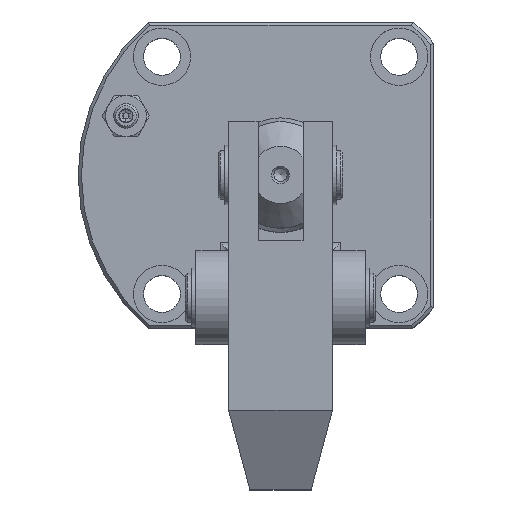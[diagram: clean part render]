
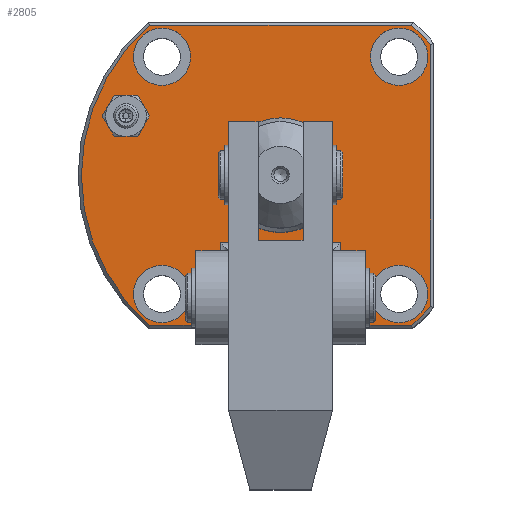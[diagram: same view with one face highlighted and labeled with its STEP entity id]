
A CAD part, top view. The second image highlights one B-rep face of the part: STEP entity #2805.
In plain terms, the highlighted planar face has unit normal (0, 0, 1).
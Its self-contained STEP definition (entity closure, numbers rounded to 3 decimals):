
#210=CIRCLE('',#3038,5.);
#247=CIRCLE('',#3112,48.7);
#248=CIRCLE('',#3115,48.7);
#249=CIRCLE('',#3118,48.7);
#250=CIRCLE('',#3121,7.);
#251=CIRCLE('',#3123,7.);
#252=CIRCLE('',#3125,7.);
#253=CIRCLE('',#3127,7.);
#254=CIRCLE('',#3129,14.);
#372=PLANE('',#3130);
#466=LINE('',#4701,#604);
#478=LINE('',#4865,#616);
#479=LINE('',#4879,#617);
#480=LINE('',#4888,#618);
#482=LINE('',#4907,#620);
#483=LINE('',#4909,#621);
#484=LINE('',#4911,#622);
#604=VECTOR('',#3476,1000.);
#616=VECTOR('',#3632,1000.);
#617=VECTOR('',#3639,1000.);
#618=VECTOR('',#3646,1000.);
#620=VECTOR('',#3670,1000.);
#621=VECTOR('',#3671,1000.);
#622=VECTOR('',#3672,1000.);
#1013=ORIENTED_EDGE('',*,*,#1514,.F.);
#1014=ORIENTED_EDGE('',*,*,#1594,.T.);
#1015=ORIENTED_EDGE('',*,*,#1523,.T.);
#1016=ORIENTED_EDGE('',*,*,#1595,.T.);
#1017=ORIENTED_EDGE('',*,*,#1596,.T.);
#1018=ORIENTED_EDGE('',*,*,#1597,.T.);
#1019=ORIENTED_EDGE('',*,*,#1588,.T.);
#1020=ORIENTED_EDGE('',*,*,#1587,.T.);
#1021=ORIENTED_EDGE('',*,*,#1585,.T.);
#1022=ORIENTED_EDGE('',*,*,#1583,.T.);
#1023=ORIENTED_EDGE('',*,*,#1581,.T.);
#1024=ORIENTED_EDGE('',*,*,#1578,.T.);
#1025=ORIENTED_EDGE('',*,*,#1592,.F.);
#1026=ORIENTED_EDGE('',*,*,#1591,.F.);
#1027=ORIENTED_EDGE('',*,*,#1590,.F.);
#1028=ORIENTED_EDGE('',*,*,#1593,.F.);
#1514=EDGE_CURVE('',#1847,#1847,#210,.T.);
#1523=EDGE_CURVE('',#1855,#1854,#466,.T.);
#1578=EDGE_CURVE('',#1897,#1855,#247,.T.);
#1581=EDGE_CURVE('',#1898,#1897,#478,.T.);
#1583=EDGE_CURVE('',#1899,#1898,#248,.T.);
#1585=EDGE_CURVE('',#1900,#1899,#479,.T.);
#1587=EDGE_CURVE('',#1901,#1900,#249,.T.);
#1588=EDGE_CURVE('',#1902,#1901,#480,.T.);
#1590=EDGE_CURVE('',#1903,#1903,#250,.T.);
#1591=EDGE_CURVE('',#1904,#1904,#251,.T.);
#1592=EDGE_CURVE('',#1905,#1905,#252,.T.);
#1593=EDGE_CURVE('',#1906,#1906,#253,.T.);
#1594=EDGE_CURVE('',#1907,#1907,#254,.T.);
#1595=EDGE_CURVE('',#1854,#1908,#482,.F.);
#1596=EDGE_CURVE('',#1908,#1909,#483,.F.);
#1597=EDGE_CURVE('',#1909,#1902,#484,.F.);
#1847=VERTEX_POINT('',#4674);
#1854=VERTEX_POINT('',#4700);
#1855=VERTEX_POINT('',#4702);
#1897=VERTEX_POINT('',#4854);
#1898=VERTEX_POINT('',#4864);
#1899=VERTEX_POINT('',#4871);
#1900=VERTEX_POINT('',#4878);
#1901=VERTEX_POINT('',#4885);
#1902=VERTEX_POINT('',#4889);
#1903=VERTEX_POINT('',#4893);
#1904=VERTEX_POINT('',#4896);
#1905=VERTEX_POINT('',#4899);
#1906=VERTEX_POINT('',#4902);
#1907=VERTEX_POINT('',#4905);
#1908=VERTEX_POINT('',#4908);
#1909=VERTEX_POINT('',#4910);
#2170=EDGE_LOOP('',(#1013));
#2171=EDGE_LOOP('',(#1014));
#2172=EDGE_LOOP('',(#1015,#1016,#1017,#1018,#1019,#1020,#1021,#1022,#1023,
#1024));
#2173=EDGE_LOOP('',(#1025));
#2174=EDGE_LOOP('',(#1026));
#2175=EDGE_LOOP('',(#1027));
#2176=EDGE_LOOP('',(#1028));
#2474=FACE_BOUND('',#2170,.T.);
#2475=FACE_BOUND('',#2171,.T.);
#2476=FACE_BOUND('',#2172,.T.);
#2477=FACE_BOUND('',#2173,.T.);
#2478=FACE_BOUND('',#2174,.T.);
#2479=FACE_BOUND('',#2175,.T.);
#2480=FACE_BOUND('',#2176,.T.);
#2805=ADVANCED_FACE('',(#2474,#2475,#2476,#2477,#2478,#2479,#2480),#372,
 .T.);
#3038=AXIS2_PLACEMENT_3D('',#4673,#3460,#3461);
#3112=AXIS2_PLACEMENT_3D('',#4853,#3628,#3629);
#3115=AXIS2_PLACEMENT_3D('',#4872,#3635,#3636);
#3118=AXIS2_PLACEMENT_3D('',#4886,#3642,#3643);
#3121=AXIS2_PLACEMENT_3D('',#4892,#3650,#3651);
#3123=AXIS2_PLACEMENT_3D('',#4895,#3654,#3655);
#3125=AXIS2_PLACEMENT_3D('',#4898,#3658,#3659);
#3127=AXIS2_PLACEMENT_3D('',#4901,#3662,#3663);
#3129=AXIS2_PLACEMENT_3D('',#4904,#3666,#3667);
#3130=AXIS2_PLACEMENT_3D('',#4906,#3668,#3669);
#3460=DIRECTION('',(0.,0.,1.));
#3461=DIRECTION('',(0.,-1.,0.));
#3476=DIRECTION('',(1.,0.,0.));
#3628=DIRECTION('',(0.,0.,1.));
#3629=DIRECTION('',(0.,-1.,0.));
#3632=DIRECTION('',(-1.,0.,0.));
#3635=DIRECTION('',(0.,0.,1.));
#3636=DIRECTION('',(0.,-1.,0.));
#3639=DIRECTION('',(0.,1.,0.));
#3642=DIRECTION('',(0.,0.,1.));
#3643=DIRECTION('',(0.,-1.,0.));
#3646=DIRECTION('',(1.,0.,0.));
#3650=DIRECTION('',(0.,0.,1.));
#3651=DIRECTION('',(1.,0.,0.));
#3654=DIRECTION('',(0.,0.,1.));
#3655=DIRECTION('',(1.,0.,0.));
#3658=DIRECTION('',(0.,0.,1.));
#3659=DIRECTION('',(1.,0.,0.));
#3662=DIRECTION('',(0.,0.,1.));
#3663=DIRECTION('',(1.,0.,0.));
#3666=DIRECTION('',(0.,0.,-1.));
#3667=DIRECTION('',(0.,-1.,0.));
#3668=DIRECTION('',(0.,0.,1.));
#3669=DIRECTION('',(0.,-1.,0.));
#3670=DIRECTION('',(0.,-1.,0.));
#3671=DIRECTION('',(-1.,0.,0.));
#3672=DIRECTION('',(0.,1.,0.));
#4673=CARTESIAN_POINT('',(-51.55,54.04,18.799));
#4674=CARTESIAN_POINT('',(-51.55,49.04,18.799));
#4700=CARTESIAN_POINT('',(-28.45,2.8,18.799));
#4701=CARTESIAN_POINT('',(-13.75,2.8,18.799));
#4702=CARTESIAN_POINT('',(-45.762,2.8,18.799));
#4853=CARTESIAN_POINT('',(-13.75,39.5,18.799));
#4854=CARTESIAN_POINT('',(-45.762,76.2,18.799));
#4864=CARTESIAN_POINT('',(18.262,76.2,18.799));
#4865=CARTESIAN_POINT('',(-13.75,76.2,18.799));
#4871=CARTESIAN_POINT('',(22.95,71.512,18.799));
#4872=CARTESIAN_POINT('',(-13.75,39.5,18.799));
#4878=CARTESIAN_POINT('',(22.95,7.488,18.799));
#4879=CARTESIAN_POINT('',(22.95,39.5,18.799));
#4885=CARTESIAN_POINT('',(18.262,2.8,18.799));
#4886=CARTESIAN_POINT('',(-13.75,39.5,18.799));
#4888=CARTESIAN_POINT('',(-13.75,2.8,18.799));
#4889=CARTESIAN_POINT('',(0.95,2.8,18.799));
#4892=CARTESIAN_POINT('',(-42.75,68.5,18.799));
#4893=CARTESIAN_POINT('',(-35.75,68.5,18.799));
#4895=CARTESIAN_POINT('',(15.25,68.5,18.799));
#4896=CARTESIAN_POINT('',(22.25,68.5,18.799));
#4898=CARTESIAN_POINT('',(15.25,10.5,18.799));
#4899=CARTESIAN_POINT('',(22.25,10.5,18.799));
#4901=CARTESIAN_POINT('',(-42.75,10.5,18.799));
#4902=CARTESIAN_POINT('',(-35.75,10.5,18.799));
#4904=CARTESIAN_POINT('',(-13.75,39.5,18.799));
#4905=CARTESIAN_POINT('',(-13.75,25.5,18.799));
#4906=CARTESIAN_POINT('',(-13.75,39.5,18.799));
#4907=CARTESIAN_POINT('',(-28.45,21.,18.799));
#4908=CARTESIAN_POINT('',(-28.45,23.,18.799));
#4909=CARTESIAN_POINT('',(-13.75,23.,18.799));
#4910=CARTESIAN_POINT('',(0.95,23.,18.799));
#4911=CARTESIAN_POINT('',(0.95,39.5,18.799));
